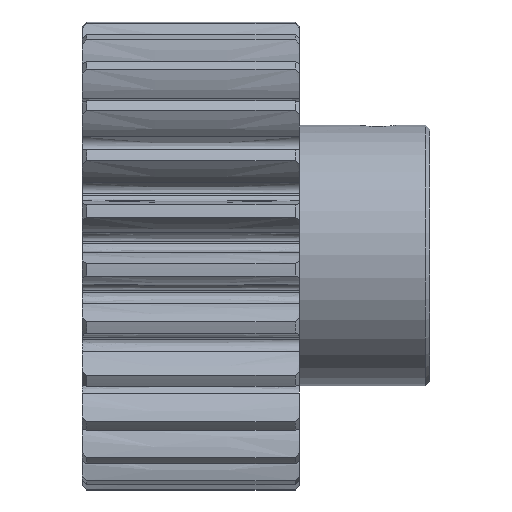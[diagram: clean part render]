
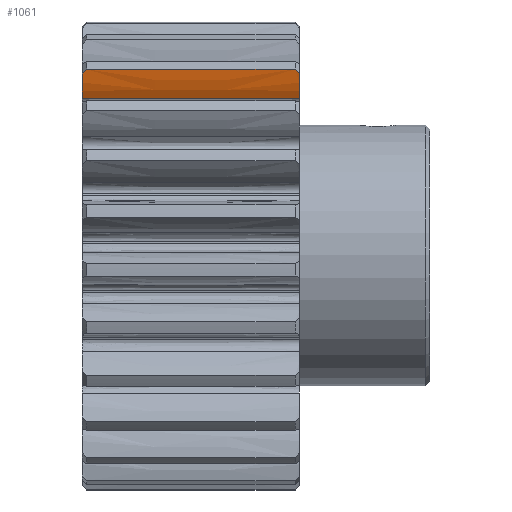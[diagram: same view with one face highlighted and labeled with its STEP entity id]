
A CAD part, top view. The second image highlights one B-rep face of the part: STEP entity #1061.
In plain terms, the highlighted face is a extrusion surface.
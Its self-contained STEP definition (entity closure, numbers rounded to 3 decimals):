
#1061=ADVANCED_FACE('',(#2727),#2729,.F.);
#2727=FACE_BOUND('',#2728,.T.);
#2728=EDGE_LOOP('',(#4750,#4751,#4752,#4753,#4754,#4755));
#2729=SURFACE_OF_LINEAR_EXTRUSION('',#2730,#2731);
#2730=B_SPLINE_CURVE_WITH_KNOTS('',3,
(#4756,#4757,#4758,#4759,#4760,#4761,#4762,#4763),
.UNSPECIFIED.,.F.,.F.,
(4,2,2,4),
(0.,0.318,0.652,1.),
.UNSPECIFIED.);
#2731=VECTOR('',#2732,25.);
#2732=DIRECTION('',(1.,0.,0.));
#4750=ORIENTED_EDGE('',*,*,#5988,.F.);
#4751=ORIENTED_EDGE('',*,*,#5990,.F.);
#4752=ORIENTED_EDGE('',*,*,#5991,.F.);
#4753=ORIENTED_EDGE('',*,*,#5702,.F.);
#4754=ORIENTED_EDGE('',*,*,#5992,.T.);
#4755=ORIENTED_EDGE('',*,*,#5597,.F.);
#4756=CARTESIAN_POINT('',(0.,18.002,15.334));
#4757=CARTESIAN_POINT('',(0.,18.333,15.533));
#4758=CARTESIAN_POINT('',(0.,18.676,15.705));
#4759=CARTESIAN_POINT('',(0.,19.4,15.999));
#4760=CARTESIAN_POINT('',(0.,19.79,16.111));
#4761=CARTESIAN_POINT('',(0.,20.584,16.312));
#4762=CARTESIAN_POINT('',(0.,20.995,16.392));
#4763=CARTESIAN_POINT('',(0.,21.413,16.447));
#5597=EDGE_CURVE('',#6343,#6345,#6346,.F.);
#5702=EDGE_CURVE('',#6553,#6555,#6556,.T.);
#5988=EDGE_CURVE('',#7008,#6343,#7009,.T.);
#5990=EDGE_CURVE('',#7011,#7008,#7012,.F.);
#5991=EDGE_CURVE('',#6555,#7011,#7013,.F.);
#5992=EDGE_CURVE('',#6553,#6345,#7014,.T.);
#6343=VERTEX_POINT('',#7970);
#6345=VERTEX_POINT('',#7975);
#6346=TRIMMED_CURVE('',#7976,(PARAMETER_VALUE(0.)),(PARAMETER_VALUE(0.842)),
.T.,.PARAMETER.);
#6553=VERTEX_POINT('',#8533);
#6555=VERTEX_POINT('',#8542);
#6556=TRIMMED_CURVE('',#8543,(PARAMETER_VALUE(0.)),(PARAMETER_VALUE(0.842)),
.T.,.PARAMETER.);
#7008=VERTEX_POINT('',#9978);
#7009=B_SPLINE_CURVE_WITH_KNOTS('',3,
(#9979,#9980,#9981,#9982,#9983,#9984,#9985),
.UNSPECIFIED.,.F.,.F.,
(4,1,1,1,4),
(0.,0.239,0.486,0.739,1.),
.UNSPECIFIED.);
#7011=VERTEX_POINT('',#9990);
#7012=LINE('',#9991,#9992);
#7013=B_SPLINE_CURVE_WITH_KNOTS('',3,
(#9994,#9995,#9996,#9997,#9998,#9999,#10000),
.UNSPECIFIED.,.F.,.F.,
(4,1,1,1,4),
(0.,0.239,0.486,0.739,1.),
.UNSPECIFIED.);
#7014=LINE('',#10001,#10002);
#7970=CARTESIAN_POINT('',(25.,20.849,16.357));
#7975=CARTESIAN_POINT('',(25.,18.002,15.334));
#7976=B_SPLINE_CURVE_WITH_KNOTS('',3,
(#10806,#10807,#10808,#10809,#10810,#10811,#10812,#10813),
.UNSPECIFIED.,.F.,.F.,
(4,2,2,4),
(0.,0.318,0.652,1.),
.UNSPECIFIED.);
#8533=CARTESIAN_POINT('',(0.,18.002,15.334));
#8542=CARTESIAN_POINT('',(0.,20.849,16.357));
#8543=B_SPLINE_CURVE_WITH_KNOTS('',3,
(#11078,#11079,#11080,#11081,#11082,#11083,#11084,#11085),
.UNSPECIFIED.,.F.,.F.,
(4,2,2,4),
(0.,0.318,0.652,1.),
.UNSPECIFIED.);
#9978=CARTESIAN_POINT('',(24.5,21.413,16.447));
#9979=CARTESIAN_POINT('',(24.5,21.413,16.447));
#9980=CARTESIAN_POINT('',(24.54,21.367,16.441));
#9981=CARTESIAN_POINT('',(24.62,21.275,16.428));
#9982=CARTESIAN_POINT('',(24.743,21.136,16.407));
#9983=CARTESIAN_POINT('',(24.87,20.994,16.383));
#9984=CARTESIAN_POINT('',(24.956,20.898,16.366));
#9985=CARTESIAN_POINT('',(25.,20.849,16.357));
#9990=CARTESIAN_POINT('',(0.5,21.413,16.447));
#9991=CARTESIAN_POINT('',(24.5,21.413,16.447));
#9992=VECTOR('',#9993,1.);
#9993=DIRECTION('',(-1.,0.,0.));
#9994=CARTESIAN_POINT('',(0.5,21.413,16.447));
#9995=CARTESIAN_POINT('',(0.46,21.367,16.441));
#9996=CARTESIAN_POINT('',(0.38,21.275,16.428));
#9997=CARTESIAN_POINT('',(0.257,21.136,16.407));
#9998=CARTESIAN_POINT('',(0.13,20.994,16.383));
#9999=CARTESIAN_POINT('',(0.044,20.898,16.366));
#10000=CARTESIAN_POINT('',(0.,20.849,16.357));
#10001=CARTESIAN_POINT('',(0.,18.002,15.334));
#10002=VECTOR('',#10003,1.);
#10003=DIRECTION('',(1.,0.,0.));
#10806=CARTESIAN_POINT('',(25.,18.002,15.334));
#10807=CARTESIAN_POINT('',(25.,18.333,15.533));
#10808=CARTESIAN_POINT('',(25.,18.676,15.705));
#10809=CARTESIAN_POINT('',(25.,19.4,15.999));
#10810=CARTESIAN_POINT('',(25.,19.79,16.111));
#10811=CARTESIAN_POINT('',(25.,20.584,16.312));
#10812=CARTESIAN_POINT('',(25.,20.995,16.392));
#10813=CARTESIAN_POINT('',(25.,21.413,16.447));
#11078=CARTESIAN_POINT('',(0.,18.002,15.334));
#11079=CARTESIAN_POINT('',(0.,18.333,15.533));
#11080=CARTESIAN_POINT('',(0.,18.676,15.705));
#11081=CARTESIAN_POINT('',(0.,19.4,15.999));
#11082=CARTESIAN_POINT('',(0.,19.79,16.111));
#11083=CARTESIAN_POINT('',(0.,20.584,16.312));
#11084=CARTESIAN_POINT('',(0.,20.995,16.392));
#11085=CARTESIAN_POINT('',(0.,21.413,16.447));
